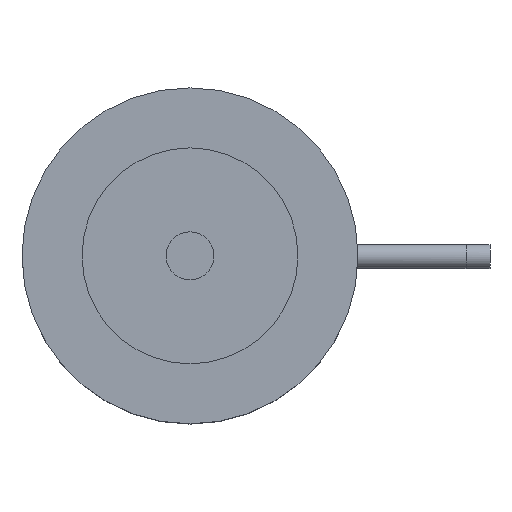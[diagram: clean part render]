
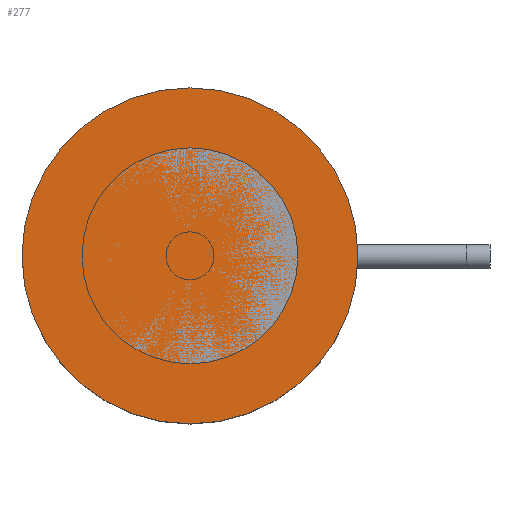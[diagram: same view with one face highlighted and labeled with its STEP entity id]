
A CAD part, top view. The second image highlights one B-rep face of the part: STEP entity #277.
In plain terms, the highlighted planar face has unit normal (0, 0, 1).
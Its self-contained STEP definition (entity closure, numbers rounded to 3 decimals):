
#277=ADVANCED_FACE('',(#401),#365,.F.);
#365=PLANE('',#1365);
#401=FACE_OUTER_BOUND('',#551,.T.);
#551=EDGE_LOOP('',(#693));
#693=ORIENTED_EDGE('',*,*,#1120,.F.);
#999=VERTEX_POINT('',#1950);
#1120=EDGE_CURVE('',#999,#999,#1274,.T.);
#1274=CIRCLE('',#1364,14.);
#1364=AXIS2_PLACEMENT_3D('',#1949,#1552,#1553);
#1365=AXIS2_PLACEMENT_3D('',#1951,#1554,#1555);
#1552=DIRECTION('',(0.,0.,-1.));
#1553=DIRECTION('',(-1.,0.,0.));
#1554=DIRECTION('',(0.,0.,-1.));
#1555=DIRECTION('',(-1.,0.,0.));
#1949=CARTESIAN_POINT('',(0.,0.,0.));
#1950=CARTESIAN_POINT('',(-14.,0.,0.));
#1951=CARTESIAN_POINT('',(0.,0.,0.));
